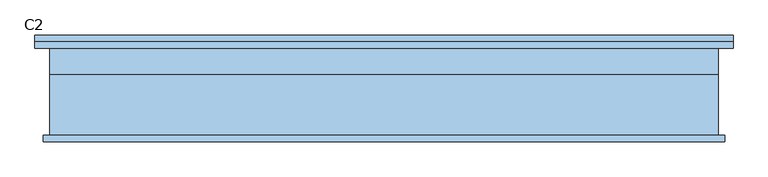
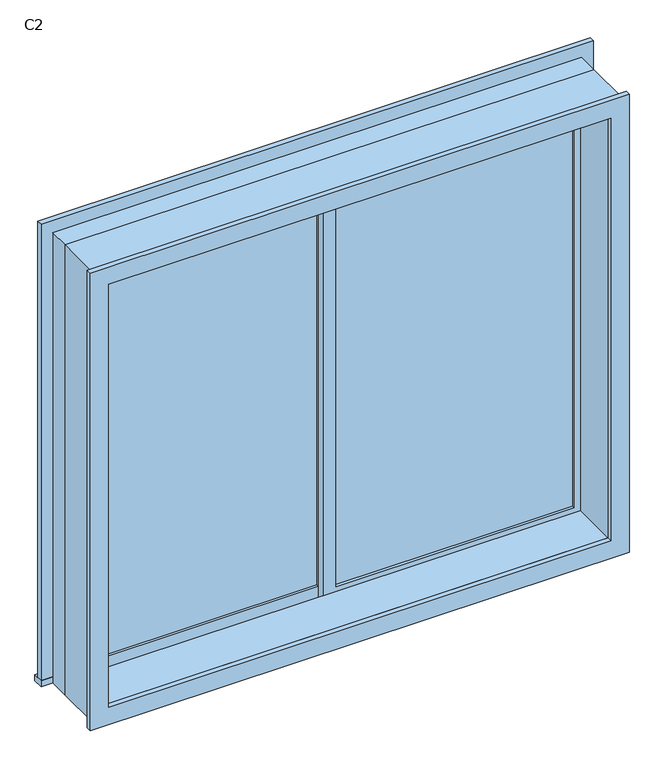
"""IFC4 building model written with IfcOpenShell, lengths in millimetres: window geometry, 推拉窗5 - 带贴面 : C2."""

from ifc_helpers import new_model, si_unit, frame, origin, place, context, project, spatial, polyline, outline, extrude, source, transform, mapped, element, save


def c2_0d9a7da2(model_context):
    return source(origin(), model_context, "Body", "SweptSolid", [
        extrude(outline(polyline([(-915.475, 33.1265625), (-15.475, 33.1265625), (-15.475, 23.1265625), (-915.475, 23.1265625), (-915.475, 33.1265625)])), frame((0.0, 0.0, 980.0), z_axis=(0.0, 0.0, 1.0), x_axis=(1.0, 0.0, 0.0)), (0.0, 0.0, 1.0), 1650.0),
        extrude(outline(polyline([(34.525, 3.1265625), (934.525, 3.1265625), (934.525, -6.8734375), (34.525, -6.8734375), (34.525, 3.1265625)])), frame((0.0, 0.0, 980.0), z_axis=(0.0, 0.0, 1.0), x_axis=(1.0, 0.0, 0.0)), (0.0, 0.0, 1.0), 1650.0),
        extrude(outline(polyline([(2705.0, -990.475), (905.0, -990.475), (905.0, 1009.525), (2705.0, 1009.525), (2705.0, -990.475)]), holes=[polyline([(2650.0, 959.525), (960.0, 959.525), (960.0, -940.475), (2650.0, -940.475), (2650.0, 959.525)])]), frame((0.0, -196.8734375, 0.0), z_axis=(0.0, 1.0, 0.0), x_axis=(0.0, 0.0, 1.0)), (0.0, 0.0, 1.0), 180.0),
        extrude(outline(polyline([(930.0, 34.525), (2680.0, 34.525), (2680.0, -965.475), (930.0, -965.475), (930.0, 34.525)]), holes=[polyline([(980.0, -15.475), (980.0, -915.475), (2630.0, -915.475), (2630.0, -15.475), (980.0, -15.475)])]), frame((0.0, 13.1265625, 0.0), z_axis=(0.0, 1.0, 0.0), x_axis=(0.0, 0.0, 1.0)), (0.0, 0.0, 1.0), 30.0),
        extrude(outline(polyline([(2680.0, -15.475), (930.0, -15.475), (930.0, 984.525), (2680.0, 984.525), (2680.0, -15.475)]), holes=[polyline([(2630.0, 34.525), (2630.0, 934.525), (980.0, 934.525), (980.0, 34.525), (2630.0, 34.525)])]), frame((0.0, -16.8734375, 0.0), z_axis=(0.0, 1.0, 0.0), x_axis=(0.0, 0.0, 1.0)), (0.0, 0.0, 1.0), 30.0),
        extrude(outline(polyline([(2705.0, -990.475), (905.0, -990.475), (905.0, 1009.525), (2705.0, 1009.525), (2705.0, -990.475)]), holes=[polyline([(930.0, -965.475), (2680.0, -965.475), (2680.0, 984.525), (930.0, 984.525), (930.0, -965.475)])]), frame((0.0, -16.8734375, 0.0), z_axis=(0.0, 1.0, 0.0), x_axis=(0.0, 0.0, 1.0)), (0.0, 0.0, 1.0), 80.0),
        extrude(outline(polyline([(2720.0, -1010.475), (890.0, -1010.475), (890.0, 1029.525), (2720.0, 1029.525), (2720.0, -1010.475)]), holes=[polyline([(960.0, 959.525), (960.0, -940.475), (2650.0, -940.475), (2650.0, 959.525), (960.0, 959.525)])]), frame((0.0, -216.8734375, 0.0), z_axis=(0.0, 1.0, 0.0), x_axis=(0.0, 0.0, 1.0)), (0.0, 0.0, 1.0), 20.0),
        extrude(outline(polyline([(-1035.475, 103.1265625), (1054.525, 103.1265625), (1054.525, 63.1265625), (-1035.475, 63.1265625), (-1035.475, 103.1265625)])), frame((0.0, 0.0, 905.0), z_axis=(0.0, 0.0, 1.0), x_axis=(1.0, 0.0, 0.0)), (0.0, 0.0, 1.0), 25.0),
        extrude(outline(polyline([(930.0, 1054.525), (2755.0, 1054.525), (2755.0, -1035.475), (930.0, -1035.475), (930.0, -965.475), (2680.0, -965.475), (2680.0, 984.525), (930.0, 984.525), (930.0, 1054.525)])), frame((0.0, 63.1265625, 0.0), z_axis=(0.0, 1.0, 0.0), x_axis=(0.0, 0.0, 1.0)), (0.0, 0.0, 1.0), 20.0),
    ])


if __name__ == "__main__":
    model = new_model("IFC4")
    model_context = context("Model", 3, world=origin())
    ifc_project = project(units=[si_unit("LENGTHUNIT", "METRE", prefix="MILLI")], contexts=[model_context])
    site = spatial("IfcSite", under=ifc_project)
    building = spatial("IfcBuilding", under=site)
    placement = place(None, origin())
    c2_shape = c2_0d9a7da2(model_context)
    element("IfcWindow", 1, ObjectType="推拉窗5 - 带贴面 : C2", at=placement, inside=building, context=model_context, shape_type="MappedRepresentation", body=[
        mapped(c2_shape, transform((0.0, 0.0, 0.0), x_axis=(1.0, 0.0, 0.0), y_axis=(0.0, 1.0, 0.0), z_axis=(0.0, 0.0, 1.0))),
    ])
    save(model, "model.ifc")
